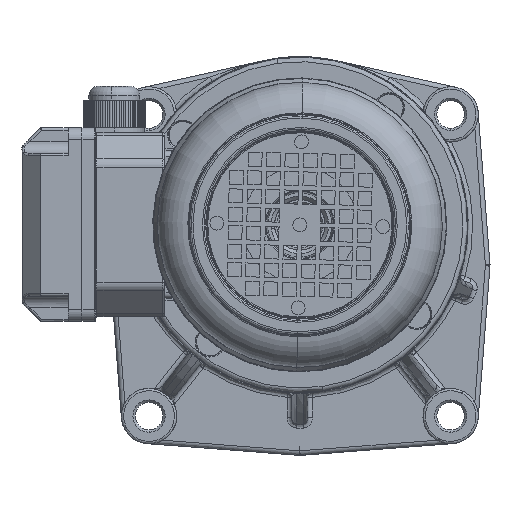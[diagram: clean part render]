
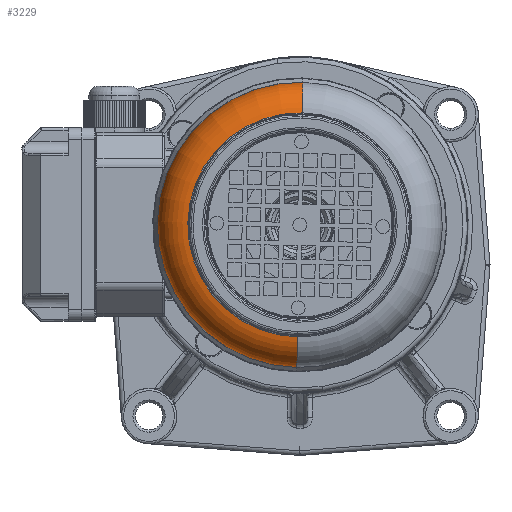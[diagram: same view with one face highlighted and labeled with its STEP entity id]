
A CAD part, front view. The second image highlights one B-rep face of the part: STEP entity #3229.
In plain terms, the highlighted toroidal (fillet/blend) face has major radius 46.75 mm and minor radius 15 mm.
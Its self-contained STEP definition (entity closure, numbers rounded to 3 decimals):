
#382 = FACE_OUTER_BOUND ( 'NONE', #38676, .T. ) ;
#3229 = ADVANCED_FACE ( 'NONE', ( #382 ), #44820, .T. ) ;
#9335 = VERTEX_POINT ( 'NONE', #90743 ) ;
#11937 = DIRECTION ( 'NONE',  ( -1., 0., 0. ) ) ;
#12757 = EDGE_CURVE ( 'NONE', #18174, #80991, #20881, .T. ) ;
#13582 = CIRCLE ( 'NONE', #69203, 61.75 ) ;
#15505 = CARTESIAN_POINT ( 'NONE',  ( 11407.538, -26592.948, 48.591 ) ) ;
#18174 = VERTEX_POINT ( 'NONE', #15505 ) ;
#20881 = CIRCLE ( 'NONE', #36297, 15. ) ;
#21307 = DIRECTION ( 'NONE',  ( 0., 0., 1. ) ) ;
#31980 = ORIENTED_EDGE ( 'NONE', *, *, #12757, .T. ) ;
#32943 = VERTEX_POINT ( 'NONE', #64371 ) ;
#32998 = ORIENTED_EDGE ( 'NONE', *, *, #80219, .F. ) ;
#33866 = CARTESIAN_POINT ( 'NONE',  ( 11392.652, -26592.948, 0. ) ) ;
#36297 = AXIS2_PLACEMENT_3D ( 'NONE', #48500, #72392, #64905 ) ;
#38676 = EDGE_LOOP ( 'NONE', ( #32998, #76742, #31980, #92832 ) ) ;
#40557 = CARTESIAN_POINT ( 'NONE',  ( 11392.652, -26592.948, -46.75 ) ) ;
#40799 = DIRECTION ( 'NONE',  ( 0., 0., 1. ) ) ;
#44634 = AXIS2_PLACEMENT_3D ( 'NONE', #40557, #92870, #77438 ) ;
#44697 = CARTESIAN_POINT ( 'NONE',  ( 11407.538, -26592.948, 0. ) ) ;
#44820 = TOROIDAL_SURFACE ( 'NONE', #70243, 46.75, 15. ) ;
#46719 = EDGE_CURVE ( 'NONE', #9335, #18174, #85748, .T. ) ;
#48500 = CARTESIAN_POINT ( 'NONE',  ( 11392.652, -26592.948, 46.75 ) ) ;
#54670 = DIRECTION ( 'NONE',  ( 0., 0., 1. ) ) ;
#61624 = CARTESIAN_POINT ( 'NONE',  ( 11392.652, -26592.948, 0. ) ) ;
#64371 = CARTESIAN_POINT ( 'NONE',  ( 11392.652, -26592.948, -61.75 ) ) ;
#64905 = DIRECTION ( 'NONE',  ( 0., 0., -1. ) ) ;
#69203 = AXIS2_PLACEMENT_3D ( 'NONE', #33866, #11937, #40799 ) ;
#69559 = DIRECTION ( 'NONE',  ( -1., 0., 0. ) ) ;
#70243 = AXIS2_PLACEMENT_3D ( 'NONE', #61624, #69559, #54670 ) ;
#72392 = DIRECTION ( 'NONE',  ( 0., -1., 0. ) ) ;
#73569 = EDGE_CURVE ( 'NONE', #32943, #80991, #13582, .T. ) ;
#76742 = ORIENTED_EDGE ( 'NONE', *, *, #46719, .T. ) ;
#77438 = DIRECTION ( 'NONE',  ( 0., 0., 1. ) ) ;
#80219 = EDGE_CURVE ( 'NONE', #9335, #32943, #90765, .T. ) ;
#80991 = VERTEX_POINT ( 'NONE', #85543 ) ;
#85543 = CARTESIAN_POINT ( 'NONE',  ( 11392.652, -26592.948, 61.75 ) ) ;
#85748 = CIRCLE ( 'NONE', #88930, 48.591 ) ;
#88930 = AXIS2_PLACEMENT_3D ( 'NONE', #44697, #97499, #21307 ) ;
#90743 = CARTESIAN_POINT ( 'NONE',  ( 11407.538, -26592.948, -48.591 ) ) ;
#90765 = CIRCLE ( 'NONE', #44634, 15. ) ;
#92832 = ORIENTED_EDGE ( 'NONE', *, *, #73569, .F. ) ;
#92870 = DIRECTION ( 'NONE',  ( 0., 1., 0. ) ) ;
#97499 = DIRECTION ( 'NONE',  ( -1., 0., 0. ) ) ;
